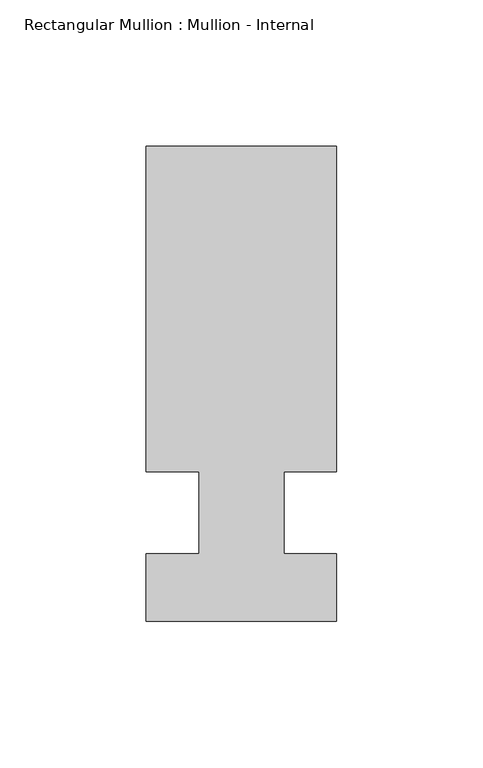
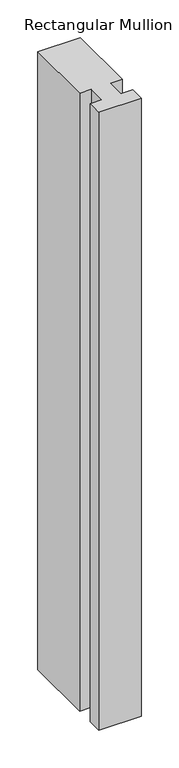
"""IFC4 building model written with IfcOpenShell, lengths in millimetres: member geometry, Rectangular Mullion : Mullion - Internal."""

from ifc_helpers import new_model, si_unit, frame, origin, place, context, project, spatial, polyline, outline, extrude, source, transform, mapped, element, save


def rectangular_mullion_mullion_internal_a03026a6(model_context):
    return source(origin(), model_context, "Body", "SweptSolid", [
        extrude(outline(polyline([(-32.5, -14.0), (-14.5, -14.0), (-14.5, 14.0), (-32.5, 14.0), (-32.5, 125.0), (32.5, 125.0), (32.5, 14.0), (14.5, 14.0), (14.5, -14.0), (32.5, -14.0), (32.5, -37.0), (-32.5, -37.0), (-32.5, -14.0)])), frame((0.0, 0.0, -1000.0), z_axis=(0.0, 0.0, 1.0), x_axis=(1.0, 0.0, 0.0)), (0.0, 0.0, 1.0), 1000.0),
    ])


if __name__ == "__main__":
    model = new_model("IFC4")
    model_context = context("Model", 3, world=origin())
    ifc_project = project(units=[si_unit("LENGTHUNIT", "METRE", prefix="MILLI")], contexts=[model_context])
    site = spatial("IfcSite", under=ifc_project)
    building = spatial("IfcBuilding", under=site)
    placement = place(None, origin())
    rectangular_mullion_mullion_internal_shape = rectangular_mullion_mullion_internal_a03026a6(model_context)
    element("IfcMember", 1, ObjectType="Rectangular Mullion : Mullion - Internal", at=placement, inside=building, context=model_context, shape_type="MappedRepresentation", body=[
        mapped(rectangular_mullion_mullion_internal_shape, transform((0.0, 0.0, 0.0), x_axis=(1.0, 0.0, 0.0), y_axis=(0.0, 1.0, 0.0), z_axis=(0.0, 0.0, 1.0))),
    ])
    save(model, "model.ifc")
